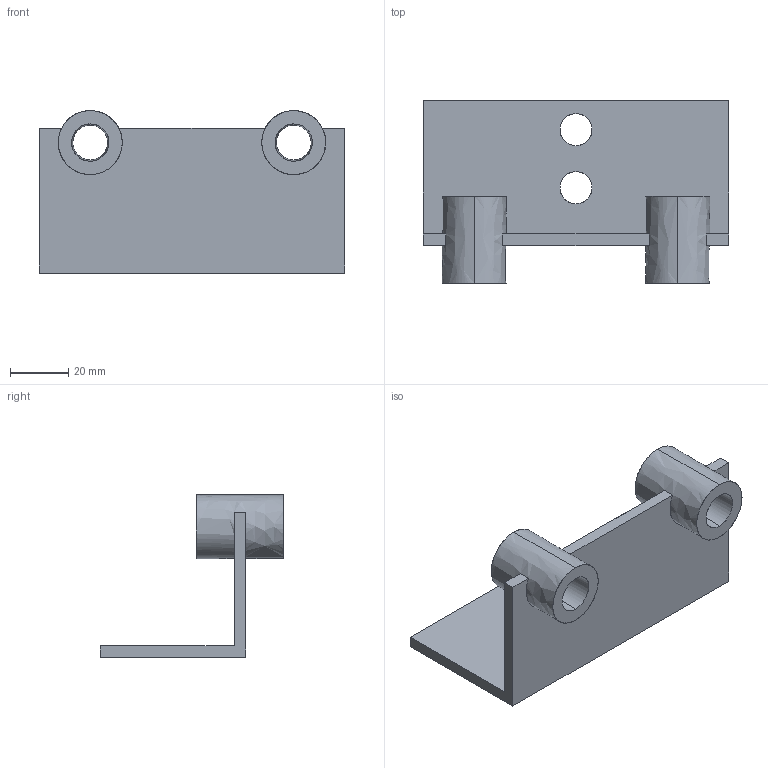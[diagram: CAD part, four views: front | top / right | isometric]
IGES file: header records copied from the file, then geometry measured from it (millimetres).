
Global section: file name: E:\UnigraphicsGraphicData\MISUMI_PRESS-PARTS\IGES\3d_tahk-c-3_01848_r00.igs; native system: NX V5.0; preprocessor: UGS NX IGES V5.0; author: MISUMI; date: 20110105.163348; units: millimetre
Bounding box: 105 x 63 x 56 mm (x, y, z)
Surface area: 27440.9 mm2 (no closed solid volume)
Topology: 0 solids, 0 shells, 38 faces, 292 edges, 292 vertices
Faces by surface type: bspline 38
